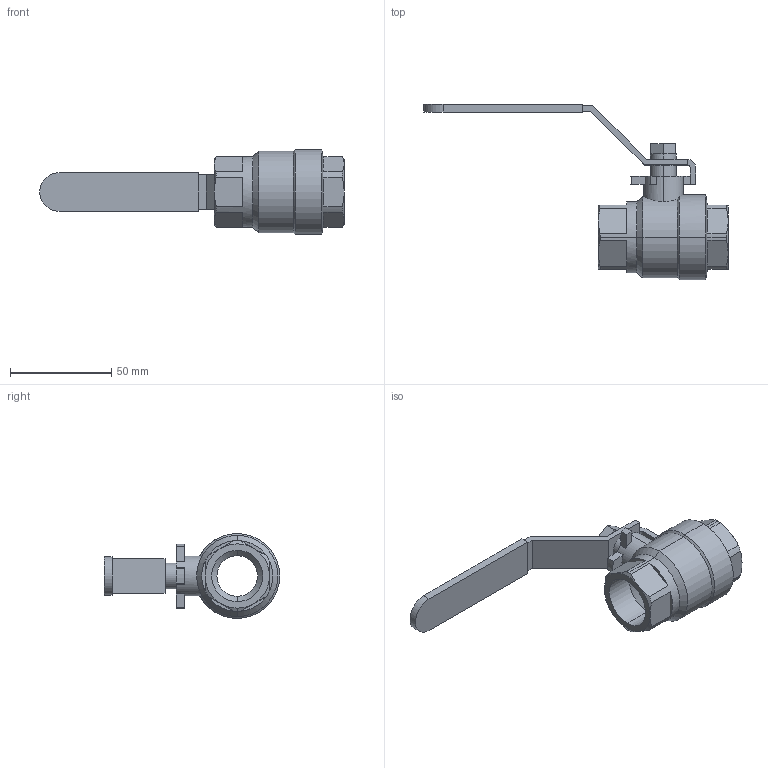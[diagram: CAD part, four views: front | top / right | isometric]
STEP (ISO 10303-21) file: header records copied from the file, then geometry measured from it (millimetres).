
FILE_DESCRIPTION (( 'STEP AP203' ), '1' );
FILE_NAME ('B3.622I020XFVPB0.STEP', '2018-12-14T09:52:40', ( 'dell2' ), ( 'Microsoft' ), 'SwSTEP 2.0', 'SolidWorks 2017', '' );
FILE_SCHEMA (( 'CONFIG_CONTROL_DESIGN' ));
Length unit declared in the file: millimetre
Products named in the file (1): B3.622I020XFVPB0
Bounding box: 150 x 86.4 x 41.8 mm (x, y, z)
Volume: 58653.6 mm3; surface area: 21332.9 mm2
Topology: 1 solids, 1 shells, 130 faces, 323 edges, 199 vertices
Faces by surface type: plane 72, cylinder 33, cone 25
Entity records: 4113 total; most frequent: CARTESIAN_POINT 929, DIRECTION 662, ORIENTED_EDGE 646, EDGE_CURVE 323, AXIS2_PLACEMENT_3D 244, VERTEX_POINT 199, VECTOR 174, LINE 174
